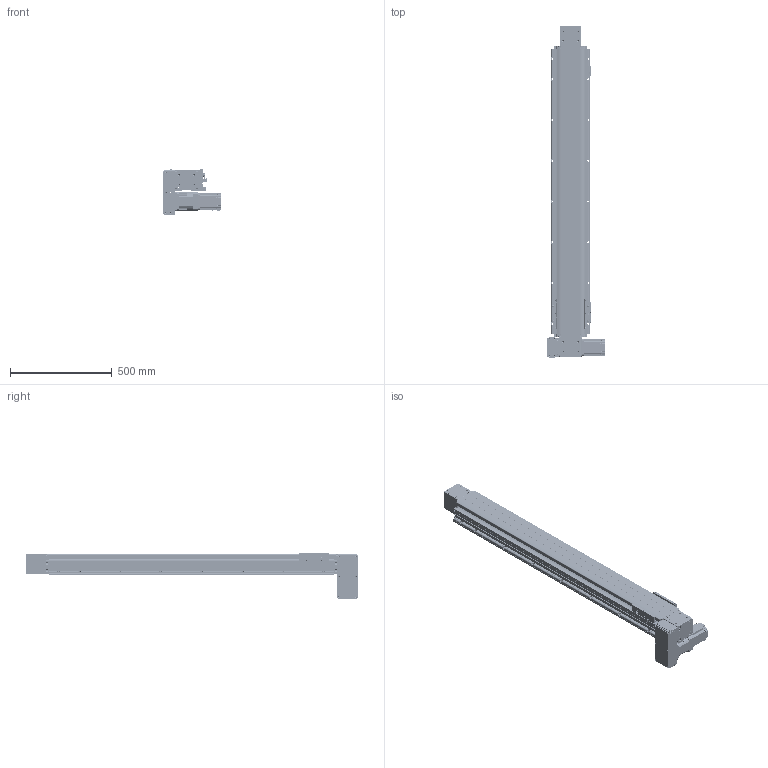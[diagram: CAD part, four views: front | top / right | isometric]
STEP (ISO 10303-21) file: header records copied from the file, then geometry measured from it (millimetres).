
FILE_DESCRIPTION(/* description */ (''),/* implementation_level */ '2;1');
FILE_NAME(/* name */ '\\192.168.0.160\disk1\HAN SHIN Master\B-설계부문\C-표준\B-2024년\BC02-표준도면\+로봇 개선표준도면\홈페이지 표준 도면\홈페이지 최종 작업 폴더\3D\HSB\HSB160\HSB160-DL7G-N-1200-R.stp',/* time_stamp */ '2025-01-10T08:56:51+09:00',/* author */ ('user'),/* organization */ (''),/* preprocessor_version */ 'ST-DEVELOPER v18.1',/* originating_system */ 'Autodesk Inventor 2022',/* authorisation */ '');
FILE_SCHEMA (('AUTOMOTIVE_DESIGN { 1 0 10303 214 3 1 1 }'));
Products named in the file (42): HSB160-DL7G-N-0500-R; BASE; HSB160 TABLE (TEST); FORNT HOUSUNG-1 (Connecting); UPCOVER; HSB160 COVER-1; REAR HOUSUNG-1---; HSB160 REAR SHAFT-2; REAR SHAFT--2; 6004ZZ; 6004ZZ Outer ring; 6004ZZ Shield1; 6004ZZ Inner ring; 6004ZZ Ball; 6004ZZ Shield2; STOPPER3; TENSION PLATE; HSB160 ARC COVER; hsr_ftht_A-M6F_grease_nipple_joint; NIPPLE CAP(신규); SIDE COVER; hg-kr73_; PGX90-H-1_3; HSB160 BEARING OVER; HSB160 END COVER; HSB160 SHAFT-1; 6206ZZ; 6206ZZ Outer ring; 6206ZZ Shield1; 6206ZZ Inner ring; 6206ZZ Ball; 6206ZZ Shield2; HR120 SENSOR DOG; SENSOR BRK(EE-SX674A); EE_SX674A; D MOTOR PLATE ASSY; HSB160 D MOTOR PLATE; HR160 400W LR BELT COVER; 750W MOTOR PLATE; HR180 ACRYL COVER - 1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
Assembly tree (87 placements, depth 3):
  HSB160-DL7G-N-0500-R
    BASE
    HSB160 TABLE (TEST)
    FORNT HOUSUNG-1 (Connecting)
    UPCOVER
    HSB160 COVER-1  x2
    REAR HOUSUNG-1---
    6004ZZ  x2
      6004ZZ Outer ring
      6004ZZ Shield1
      6004ZZ Inner ring
      6004ZZ Ball
      6004ZZ Shield2
    HSB160 REAR SHAFT-2
    REAR SHAFT--2
    TENSION PLATE  x2
    HSB160 ARC COVER  x4
    STOPPER3  x4
    SIDE COVER  x2
    hsr_ftht_A-M6F_grease_nipple_joint  x4
    NIPPLE CAP(신규)  x4
    hg-kr73_
    PGX90-H-1_3
    HSB160 BEARING OVER
    HSB160 END COVER
    6206ZZ  x2
      6206ZZ Outer ring
      6206ZZ Shield1
      6206ZZ Inner ring
      6206ZZ Ball
      6206ZZ Shield2
    HSB160 SHAFT-1
    HR120 SENSOR DOG
    SENSOR BRK(EE-SX674A)  x3
    EE_SX674A  x3
    D MOTOR PLATE ASSY
      HSB160 D MOTOR PLATE
      HR160 400W LR BELT COVER
      750W MOTOR PLATE
      HR180 ACRYL COVER - 1_2  x2
      HR180 ACRYL COVER - 1
      HR180 ACRYL COVER - 1_1
Bounding box: 284.5 x 1628.5 x 226.5 mm (x, y, z)
Volume: 10667120.8 mm3; surface area: 2741664.5 mm2
Topology: 131 solids, 133 shells, 6458 faces, 17705 edges, 11642 vertices
Faces by surface type: plane 4514, cylinder 1397, cone 375, sphere 88, torus 59, bspline 25
Full cylindrical faces by diameter (mm): 2.013 x2, 2.459 x54, 3 x20, 3.242 x50, 3.4 x22, 3.5 x6, 4.134 x18, 4.2 x4, 4.5 x40, 4.917 x74, 5 x44, 5.1 x1, 5.5 x25, 5.6 x4, 5.9 x4, 6 x21, 6.5 x9, 6.6 x18, 6.8 x9, 7 x32, 7.6 x4, 8 x5, 8.376 x16, 8.433 x2, 9 x4, 9.5 x31, 10 x5, 11 x28, 15 x8, 18.5 x2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
Entity records: 117191 total; most frequent: CARTESIAN_POINT 22235, DIRECTION 19462, ORIENTED_EDGE 18878, EDGE_CURVE 9439, AXIS2_PLACEMENT_3D 6604, LINE 6254, VECTOR 6254, VERTEX_POINT 6243
